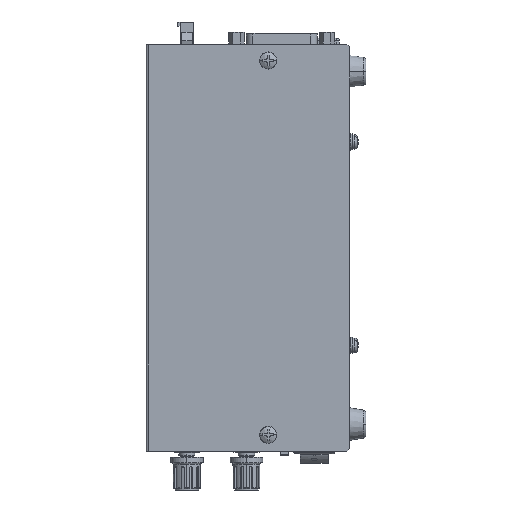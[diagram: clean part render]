
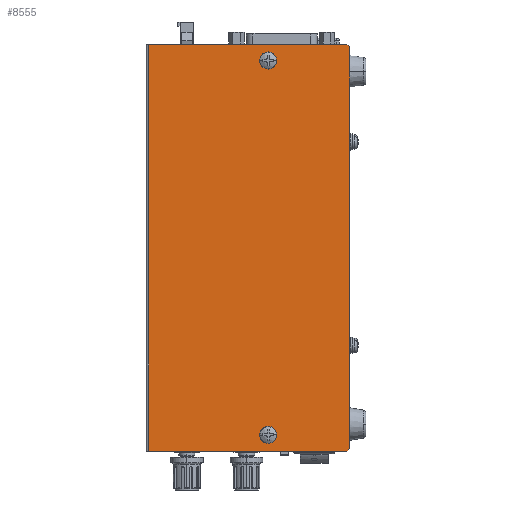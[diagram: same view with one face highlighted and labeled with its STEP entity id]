
A CAD part, left-side view. The second image highlights one B-rep face of the part: STEP entity #8555.
In plain terms, the highlighted planar face has unit normal (-1, 0, 0).
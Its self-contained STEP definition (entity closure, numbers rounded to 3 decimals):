
#661 = DIRECTION ( 'NONE',  ( -1., 0., 0. ) ) ;
#678 = VERTEX_POINT ( 'NONE', #35112 ) ;
#718 = VECTOR ( 'NONE', #38100, 1000. ) ;
#1373 = CIRCLE ( 'NONE', #17900, 3.15 ) ;
#1800 = CARTESIAN_POINT ( 'NONE',  ( 86.993, 45.291, -4.859 ) ) ;
#3423 = FACE_BOUND ( 'NONE', #29627, .T. ) ;
#3823 = DIRECTION ( 'NONE',  ( 0., 0., 1. ) ) ;
#4312 = CIRCLE ( 'NONE', #15427, 3.15 ) ;
#4535 = CARTESIAN_POINT ( 'NONE',  ( 86.993, 42.141, -4.859 ) ) ;
#4728 = EDGE_LOOP ( 'NONE', ( #27601, #10952, #17040, #27933, #12261, #33353 ) ) ;
#4828 = DIRECTION ( 'NONE',  ( 0., 0., -1. ) ) ;
#4867 = CARTESIAN_POINT ( 'NONE',  ( 86.993, 45.291, -142.859 ) ) ;
#5082 = VECTOR ( 'NONE', #33756, 1000. ) ;
#6987 = VERTEX_POINT ( 'NONE', #28204 ) ;
#7381 = DIRECTION ( 'NONE',  ( 0., 0.707, 0.707 ) ) ;
#7514 = CARTESIAN_POINT ( 'NONE',  ( 86.993, 15.291, 0.141 ) ) ;
#7554 = CARTESIAN_POINT ( 'NONE',  ( 86.993, 16.291, -148.859 ) ) ;
#7674 = VECTOR ( 'NONE', #33351, 1000. ) ;
#7719 = CARTESIAN_POINT ( 'NONE',  ( 86.993, 15.291, -152.609 ) ) ;
#7908 = DIRECTION ( 'NONE',  ( 0., 1., 0. ) ) ;
#7952 = VERTEX_POINT ( 'NONE', #25034 ) ;
#7984 = DIRECTION ( 'NONE',  ( 1., 0., 0. ) ) ;
#8055 = VERTEX_POINT ( 'NONE', #7554 ) ;
#8178 = ORIENTED_EDGE ( 'NONE', *, *, #38911, .T. ) ;
#8209 = CARTESIAN_POINT ( 'NONE',  ( 86.993, 13.441, 1.141 ) ) ;
#8555 = ADVANCED_FACE ( 'NONE', ( #27380, #3423, #26455 ), #21862, .T. ) ;
#8589 = VERTEX_POINT ( 'NONE', #33828 ) ;
#9099 = EDGE_CURVE ( 'NONE', #6987, #17595, #4312, .T. ) ;
#9719 = LINE ( 'NONE', #8209, #718 ) ;
#9879 = ORIENTED_EDGE ( 'NONE', *, *, #16088, .T. ) ;
#10952 = ORIENTED_EDGE ( 'NONE', *, *, #32125, .T. ) ;
#11490 = CARTESIAN_POINT ( 'NONE',  ( 86.993, 45.291, -146.009 ) ) ;
#12055 = CARTESIAN_POINT ( 'NONE',  ( 86.993, 45.291, -142.859 ) ) ;
#12261 = ORIENTED_EDGE ( 'NONE', *, *, #22691, .T. ) ;
#13136 = LINE ( 'NONE', #30753, #5082 ) ;
#13213 = VECTOR ( 'NONE', #37870, 1000. ) ;
#13873 = CARTESIAN_POINT ( 'NONE',  ( 86.993, 16.291, -148.859 ) ) ;
#14873 = AXIS2_PLACEMENT_3D ( 'NONE', #25969, #7984, #28961 ) ;
#15093 = DIRECTION ( 'NONE',  ( 0., 1., 0. ) ) ;
#15174 = EDGE_CURVE ( 'NONE', #38202, #6987, #26827, .T. ) ;
#15331 = VECTOR ( 'NONE', #26030, 1000. ) ;
#15427 = AXIS2_PLACEMENT_3D ( 'NONE', #33516, #15659, #36569 ) ;
#15507 = CARTESIAN_POINT ( 'NONE',  ( 86.993, 89.291, -152.609 ) ) ;
#15659 = DIRECTION ( 'NONE',  ( 1., 0., 0. ) ) ;
#16088 = EDGE_CURVE ( 'NONE', #17595, #38202, #1373, .T. ) ;
#17040 = ORIENTED_EDGE ( 'NONE', *, *, #21925, .T. ) ;
#17595 = VERTEX_POINT ( 'NONE', #4535 ) ;
#17900 = AXIS2_PLACEMENT_3D ( 'NONE', #1800, #22887, #4828 ) ;
#18853 = CARTESIAN_POINT ( 'NONE',  ( 86.993, 13.441, -152.609 ) ) ;
#19115 = CARTESIAN_POINT ( 'NONE',  ( 86.993, 45.291, -139.709 ) ) ;
#20256 = LINE ( 'NONE', #7719, #13213 ) ;
#21598 = EDGE_LOOP ( 'NONE', ( #8178, #32411 ) ) ;
#21862 = PLANE ( 'NONE',  #24928 ) ;
#21925 = EDGE_CURVE ( 'NONE', #31506, #678, #31561, .T. ) ;
#22521 = CARTESIAN_POINT ( 'NONE',  ( 86.993, 45.291, -8.009 ) ) ;
#22691 = EDGE_CURVE ( 'NONE', #8055, #37567, #24210, .T. ) ;
#22760 = VERTEX_POINT ( 'NONE', #11490 ) ;
#22794 = ORIENTED_EDGE ( 'NONE', *, *, #15174, .T. ) ;
#22887 = DIRECTION ( 'NONE',  ( 1., 0., 0. ) ) ;
#22980 = ORIENTED_EDGE ( 'NONE', *, *, #9099, .T. ) ;
#23334 = LINE ( 'NONE', #7514, #32149 ) ;
#24154 = VERTEX_POINT ( 'NONE', #19115 ) ;
#24210 = LINE ( 'NONE', #13873, #15331 ) ;
#24928 = AXIS2_PLACEMENT_3D ( 'NONE', #18853, #661, #3823 ) ;
#25034 = CARTESIAN_POINT ( 'NONE',  ( 86.993, 16.291, 1.141 ) ) ;
#25903 = DIRECTION ( 'NONE',  ( 1., 0., 0. ) ) ;
#25969 = CARTESIAN_POINT ( 'NONE',  ( 86.993, 45.291, -4.859 ) ) ;
#26030 = DIRECTION ( 'NONE',  ( 0., -0.707, 0.707 ) ) ;
#26455 = FACE_BOUND ( 'NONE', #21598, .T. ) ;
#26535 = CIRCLE ( 'NONE', #33248, 3.15 ) ;
#26827 = CIRCLE ( 'NONE', #14873, 3.15 ) ;
#27176 = CARTESIAN_POINT ( 'NONE',  ( 86.993, 89.291, 1.141 ) ) ;
#27380 = FACE_OUTER_BOUND ( 'NONE', #4728, .T. ) ;
#27409 = EDGE_CURVE ( 'NONE', #37567, #8589, #20256, .T. ) ;
#27601 = ORIENTED_EDGE ( 'NONE', *, *, #38208, .T. ) ;
#27933 = ORIENTED_EDGE ( 'NONE', *, *, #28662, .T. ) ;
#28204 = CARTESIAN_POINT ( 'NONE',  ( 86.993, 48.441, -4.859 ) ) ;
#28662 = EDGE_CURVE ( 'NONE', #678, #8055, #13136, .T. ) ;
#28961 = DIRECTION ( 'NONE',  ( 0., 0., -1. ) ) ;
#29627 = EDGE_LOOP ( 'NONE', ( #9879, #22794, #22980 ) ) ;
#30753 = CARTESIAN_POINT ( 'NONE',  ( 86.993, 13.441, -148.859 ) ) ;
#31155 = EDGE_CURVE ( 'NONE', #24154, #22760, #32128, .T. ) ;
#31506 = VERTEX_POINT ( 'NONE', #27176 ) ;
#31531 = AXIS2_PLACEMENT_3D ( 'NONE', #4867, #25903, #7908 ) ;
#31561 = LINE ( 'NONE', #15507, #7674 ) ;
#32125 = EDGE_CURVE ( 'NONE', #7952, #31506, #9719, .T. ) ;
#32128 = CIRCLE ( 'NONE', #31531, 3.15 ) ;
#32149 = VECTOR ( 'NONE', #7381, 1000. ) ;
#32411 = ORIENTED_EDGE ( 'NONE', *, *, #31155, .T. ) ;
#32926 = DIRECTION ( 'NONE',  ( 1., 0., 0. ) ) ;
#33248 = AXIS2_PLACEMENT_3D ( 'NONE', #12055, #32926, #15093 ) ;
#33351 = DIRECTION ( 'NONE',  ( 0., 0., -1. ) ) ;
#33353 = ORIENTED_EDGE ( 'NONE', *, *, #27409, .T. ) ;
#33516 = CARTESIAN_POINT ( 'NONE',  ( 86.993, 45.291, -4.859 ) ) ;
#33756 = DIRECTION ( 'NONE',  ( 0., -1., 0. ) ) ;
#33828 = CARTESIAN_POINT ( 'NONE',  ( 86.993, 15.291, 0.141 ) ) ;
#35112 = CARTESIAN_POINT ( 'NONE',  ( 86.993, 89.291, -148.859 ) ) ;
#36257 = CARTESIAN_POINT ( 'NONE',  ( 86.993, 15.291, -147.859 ) ) ;
#36569 = DIRECTION ( 'NONE',  ( 0., 1., 0. ) ) ;
#37567 = VERTEX_POINT ( 'NONE', #36257 ) ;
#37870 = DIRECTION ( 'NONE',  ( 0., 0., 1. ) ) ;
#38100 = DIRECTION ( 'NONE',  ( 0., 1., 0. ) ) ;
#38202 = VERTEX_POINT ( 'NONE', #22521 ) ;
#38208 = EDGE_CURVE ( 'NONE', #8589, #7952, #23334, .T. ) ;
#38911 = EDGE_CURVE ( 'NONE', #22760, #24154, #26535, .T. ) ;
